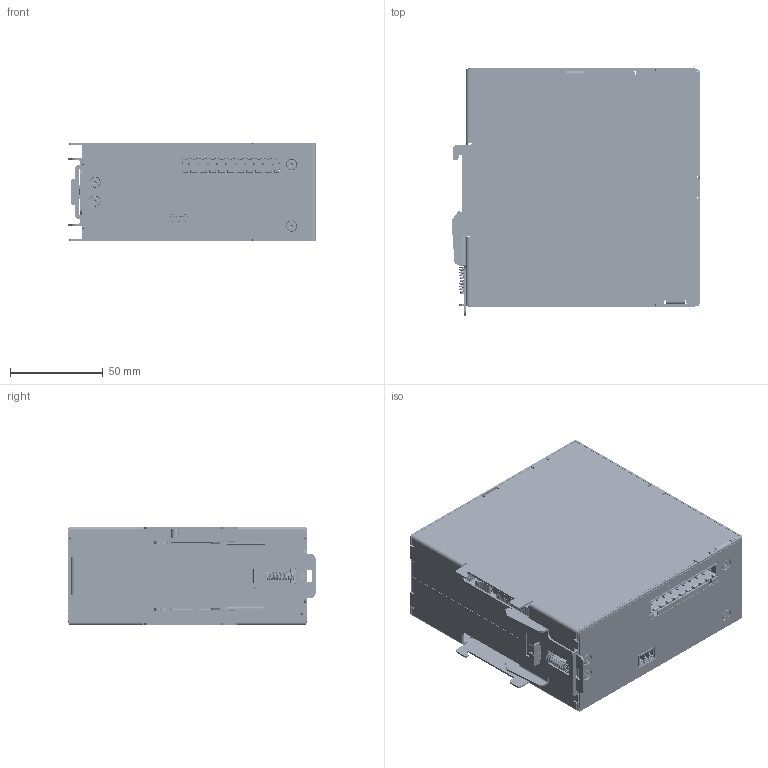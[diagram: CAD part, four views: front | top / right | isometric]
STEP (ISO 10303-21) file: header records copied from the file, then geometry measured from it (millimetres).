
FILE_DESCRIPTION (( 'STEP AP214' ), '1' );
FILE_NAME ('991-24577-00 Aucom PIM Dumb Solid No Terminals.STEP', '2023-02-20T19:44:06', ( '' ), ( '' ), 'SwSTEP 2.0', 'SolidWorks 2019', '' );
FILE_SCHEMA (( 'AUTOMOTIVE_DESIGN' ));
Length unit declared in the file: millimetre
Products named in the file (1): 991-24577-00 Aucom PIM Dumb Solid No Terminals
Bounding box: 134.23 x 133.25 x 53.23 mm (x, y, z)
Surface area: 214483.1 mm2 (no closed solid volume)
Topology: 0 solids, 195 shells, 14115 faces, 36568 edges, 23674 vertices
Faces by surface type: plane 9752, cylinder 2440, bspline 1599, cone 212, torus 88, sphere 24
Entity records: 680495 total; most frequent: CARTESIAN_POINT 192880, ORIENTED_EDGE 72984, DIRECTION 59451, EDGE_CURVE 36528, LINE 25041, VECTOR 25041, VERTEX_POINT 23674, AXIS2_PLACEMENT_3D 17205
